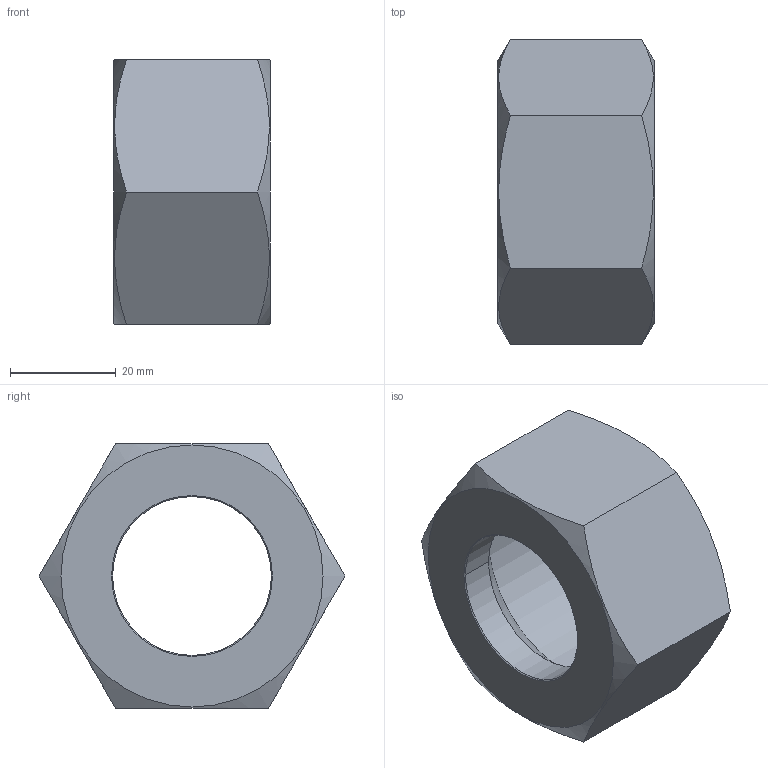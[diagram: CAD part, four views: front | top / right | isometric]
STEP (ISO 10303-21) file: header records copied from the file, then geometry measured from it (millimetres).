
FILE_DESCRIPTION((''),'2;1');
FILE_NAME('100222.stp','2006-03-06T15:10:03',('Dario Falcomer'),('CAST S.p.A.'),'AutoCAD STEP 2000i','AutoCAD 2000i',', , ');
FILE_SCHEMA(('CONFIG_CONTROL_DESIGN'));
Length unit declared in the file: millimetre
Products named in the file (2): 100222.0; CHIAVE_DADI#0
Assembly tree (1 placements, depth 2):
  100222.0
    CHIAVE_DADI#0
Bounding box: 29.5 x 57.73 x 50 mm (x, y, z)
Volume: 31195.2 mm3; surface area: 10772.5 mm2
Topology: 1 solids, 1 shells, 22 faces, 52 edges, 32 vertices
Faces by surface type: cone 10, plane 8, cylinder 4
Entity records: 725 total; most frequent: CARTESIAN_POINT 140, ORIENTED_EDGE 104, DIRECTION 100, EDGE_CURVE 52, AXIS2_PLACEMENT_3D 40, VERTEX_POINT 32, EDGE_LOOP 24, FACE_OUTER_BOUND 22
